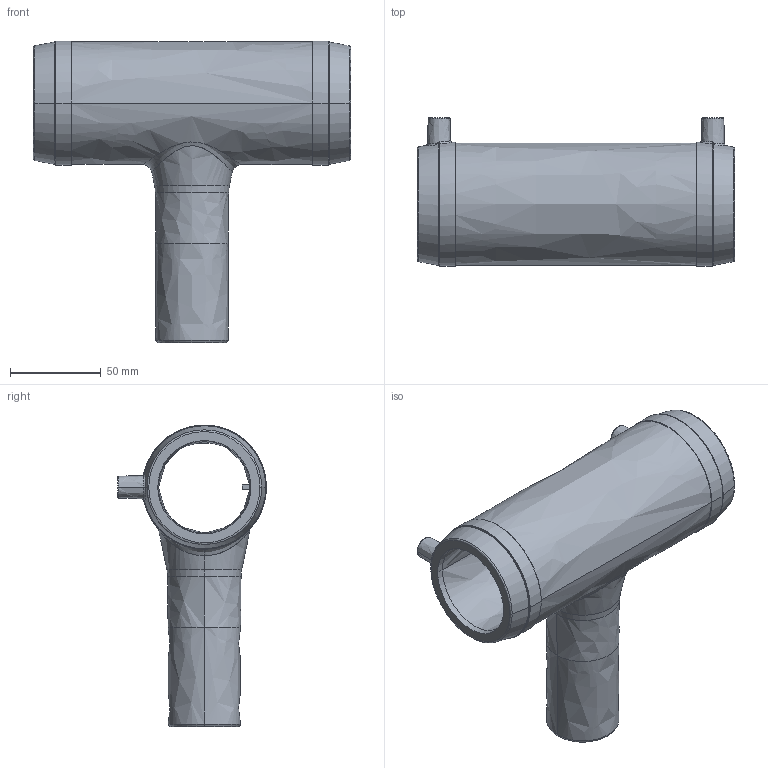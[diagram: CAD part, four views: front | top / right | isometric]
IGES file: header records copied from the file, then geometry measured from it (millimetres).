
Start section:  PTC IGES file: ta_red_d50-40_01.igs
Global section: file name: ta_red_d50-40_01.igs; native system: Pro/ENGINEER by Parametric Technology Corporation; preprocessor: 2011490; author: mtunjic; organization: Unknown; date: 20130812.131025; units: millimetre
Bounding box: 175 x 82.05 x 166.43 mm (x, y, z)
Surface area: 91162.4 mm2 (no closed solid volume)
Topology: 0 solids, 0 shells, 208 faces, 1016 edges, 1016 vertices
Faces by surface type: bspline 208
